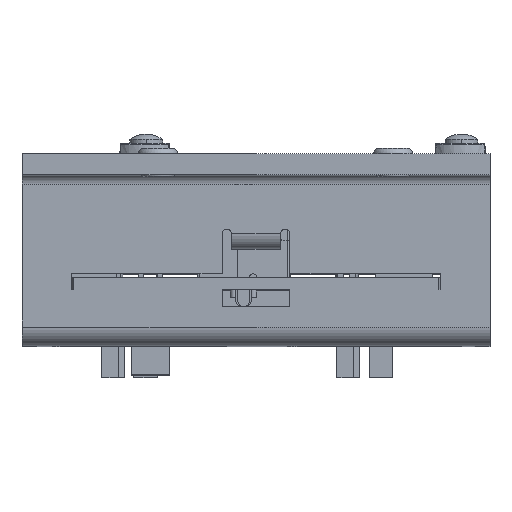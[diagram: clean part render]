
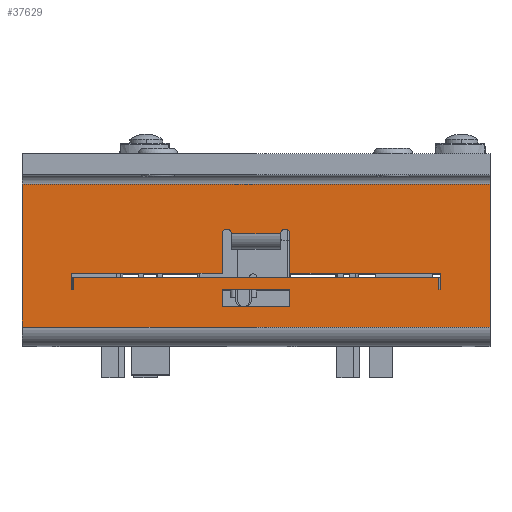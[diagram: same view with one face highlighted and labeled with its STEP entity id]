
A CAD part, top view. The second image highlights one B-rep face of the part: STEP entity #37629.
In plain terms, the highlighted planar face has unit normal (0, 0, 1).
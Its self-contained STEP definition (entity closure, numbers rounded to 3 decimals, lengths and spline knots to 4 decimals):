
#999=DIRECTION('',(0.,1.,0.));
#1000=VECTOR('',#999,0.728);
#1001=CARTESIAN_POINT('',(-0.081,-0.192,0.));
#1002=LINE('',#1001,#1000);
#1107=DIRECTION('',(0.,1.,0.));
#1108=VECTOR('',#1107,0.728);
#1109=CARTESIAN_POINT('',(2.307,-0.192,0.));
#1110=LINE('',#1109,#1108);
#1179=DIRECTION('',(-1.,0.,0.));
#1180=VECTOR('',#1179,2.388);
#1181=CARTESIAN_POINT('',(2.307,0.536,0.));
#1182=LINE('',#1181,#1180);
#1183=DIRECTION('',(-1.,0.,0.));
#1184=VECTOR('',#1183,2.388);
#1185=CARTESIAN_POINT('',(2.307,-0.192,0.));
#1186=LINE('',#1185,#1184);
#1187=DIRECTION('',(0.,1.,0.));
#1188=VECTOR('',#1187,0.0883);
#1189=CARTESIAN_POINT('',(1.286,-0.0883,0.));
#1190=LINE('',#1189,#1188);
#1191=DIRECTION('',(0.,-1.,0.));
#1192=VECTOR('',#1191,0.0883);
#1193=CARTESIAN_POINT('',(0.94,0.,0.));
#1194=LINE('',#1193,#1192);
#1195=DIRECTION('',(1.,0.,0.));
#1196=VECTOR('',#1195,0.346);
#1197=CARTESIAN_POINT('',(0.94,-0.0883,0.));
#1198=LINE('',#1197,#1196);
#1199=DIRECTION('',(1.,0.,0.));
#1200=VECTOR('',#1199,0.011);
#1201=CARTESIAN_POINT('',(0.171,0.,0.));
#1202=LINE('',#1201,#1200);
#1203=DIRECTION('',(0.,1.,0.));
#1204=VECTOR('',#1203,0.062);
#1205=CARTESIAN_POINT('',(0.182,0.,0.));
#1206=LINE('',#1205,#1204);
#1207=DIRECTION('',(0.,1.,0.));
#1208=VECTOR('',#1207,0.062);
#1209=CARTESIAN_POINT('',(2.046,0.,0.));
#1210=LINE('',#1209,#1208);
#1211=DIRECTION('',(1.,0.,0.));
#1212=VECTOR('',#1211,0.009);
#1213=CARTESIAN_POINT('',(2.046,0.,0.));
#1214=LINE('',#1213,#1212);
#1215=DIRECTION('',(0.,1.,0.));
#1216=VECTOR('',#1215,0.082);
#1217=CARTESIAN_POINT('',(2.055,0.,0.));
#1218=LINE('',#1217,#1216);
#1219=DIRECTION('',(-1.,0.,0.));
#1220=VECTOR('',#1219,0.769);
#1221=CARTESIAN_POINT('',(2.055,0.082,0.));
#1222=LINE('',#1221,#1220);
#1223=DIRECTION('',(0.,1.,0.));
#1224=VECTOR('',#1223,0.202);
#1225=CARTESIAN_POINT('',(1.286,0.082,0.));
#1226=LINE('',#1225,#1224);
#1227=CARTESIAN_POINT('',(1.262,0.284,0.));
#1228=DIRECTION('',(0.,0.,1.));
#1229=DIRECTION('',(1.,0.,0.));
#1230=AXIS2_PLACEMENT_3D('',#1227,#1228,#1229);
#1232=DIRECTION('',(-1.,0.,0.));
#1233=VECTOR('',#1232,0.25);
#1234=CARTESIAN_POINT('',(1.238,0.284,0.));
#1235=LINE('',#1234,#1233);
#1236=CARTESIAN_POINT('',(0.964,0.284,0.));
#1237=DIRECTION('',(0.,0.,1.));
#1238=DIRECTION('',(1.,0.,0.));
#1239=AXIS2_PLACEMENT_3D('',#1236,#1237,#1238);
#1241=DIRECTION('',(0.,-1.,0.));
#1242=VECTOR('',#1241,0.202);
#1243=CARTESIAN_POINT('',(0.94,0.284,0.));
#1244=LINE('',#1243,#1242);
#1245=DIRECTION('',(-1.,0.,0.));
#1246=VECTOR('',#1245,0.769);
#1247=CARTESIAN_POINT('',(0.94,0.082,0.));
#1248=LINE('',#1247,#1246);
#1249=DIRECTION('',(0.,-1.,0.));
#1250=VECTOR('',#1249,0.082);
#1251=CARTESIAN_POINT('',(0.171,0.082,0.));
#1252=LINE('',#1251,#1250);
#2679=DIRECTION('',(1.,0.,0.));
#2680=VECTOR('',#2679,0.346);
#2681=CARTESIAN_POINT('',(0.94,0.,0.));
#2682=LINE('',#2681,#2680);
#3820=DIRECTION('',(1.,0.,0.));
#3821=VECTOR('',#3820,1.864);
#3822=CARTESIAN_POINT('',(0.182,0.062,0.));
#3823=LINE('',#3822,#3821);
#29324=CARTESIAN_POINT('',(2.307,-0.192,0.));
#29326=VERTEX_POINT('',#29324);
#29327=CARTESIAN_POINT('',(2.307,0.536,0.));
#29328=VERTEX_POINT('',#29327);
#29344=CARTESIAN_POINT('',(-0.081,-0.192,0.));
#29346=VERTEX_POINT('',#29344);
#29347=CARTESIAN_POINT('',(-0.081,0.536,0.));
#29348=VERTEX_POINT('',#29347);
#29481=CARTESIAN_POINT('',(2.055,0.082,0.));
#29482=CARTESIAN_POINT('',(1.286,0.082,0.));
#29483=VERTEX_POINT('',#29481);
#29484=VERTEX_POINT('',#29482);
#29485=CARTESIAN_POINT('',(0.171,0.082,0.));
#29486=CARTESIAN_POINT('',(0.171,0.,0.));
#29487=VERTEX_POINT('',#29485);
#29488=VERTEX_POINT('',#29486);
#29489=CARTESIAN_POINT('',(2.055,0.,0.));
#29490=VERTEX_POINT('',#29489);
#29789=CARTESIAN_POINT('',(0.94,0.284,0.));
#29791=VERTEX_POINT('',#29789);
#29793=CARTESIAN_POINT('',(1.286,0.284,0.));
#29795=VERTEX_POINT('',#29793);
#29797=CARTESIAN_POINT('',(0.94,-0.0883,0.));
#29798=CARTESIAN_POINT('',(1.286,-0.0883,0.));
#29799=VERTEX_POINT('',#29797);
#29800=VERTEX_POINT('',#29798);
#29805=CARTESIAN_POINT('',(0.94,0.082,0.));
#29806=VERTEX_POINT('',#29805);
#29817=CARTESIAN_POINT('',(0.988,0.284,0.));
#29818=VERTEX_POINT('',#29817);
#29819=CARTESIAN_POINT('',(1.238,0.284,0.));
#29820=VERTEX_POINT('',#29819);
#30249=CARTESIAN_POINT('',(0.182,0.062,0.));
#30251=VERTEX_POINT('',#30249);
#30263=CARTESIAN_POINT('',(2.046,0.062,0.));
#30264=VERTEX_POINT('',#30263);
#30337=CARTESIAN_POINT('',(0.182,0.,0.));
#30338=VERTEX_POINT('',#30337);
#30343=CARTESIAN_POINT('',(0.94,0.,0.));
#30344=VERTEX_POINT('',#30343);
#30345=CARTESIAN_POINT('',(1.286,0.,0.));
#30346=VERTEX_POINT('',#30345);
#30347=CARTESIAN_POINT('',(2.046,0.,0.));
#30348=VERTEX_POINT('',#30347);
#37577=CARTESIAN_POINT('',(2.307,-0.192,0.));
#37578=DIRECTION('',(0.,0.,1.));
#37579=DIRECTION('',(0.,1.,0.));
#37580=AXIS2_PLACEMENT_3D('',#37577,#37578,#37579);
#37581=PLANE('',#37580);
#37582=ORIENTED_EDGE('',*,*,#37449,.F.);
#37584=ORIENTED_EDGE('',*,*,#37583,.T.);
#37585=ORIENTED_EDGE('',*,*,#37347,.T.);
#37586=ORIENTED_EDGE('',*,*,#37569,.F.);
#37587=EDGE_LOOP('',(#37582,#37584,#37585,#37586));
#37588=FACE_OUTER_BOUND('',#37587,.F.);
#37590=ORIENTED_EDGE('',*,*,#37589,.T.);
#37592=ORIENTED_EDGE('',*,*,#37591,.F.);
#37594=ORIENTED_EDGE('',*,*,#37593,.T.);
#37596=ORIENTED_EDGE('',*,*,#37595,.T.);
#37597=EDGE_LOOP('',(#37590,#37592,#37594,#37596));
#37598=FACE_BOUND('',#37597,.F.);
#37600=ORIENTED_EDGE('',*,*,#37599,.T.);
#37602=ORIENTED_EDGE('',*,*,#37601,.T.);
#37604=ORIENTED_EDGE('',*,*,#37603,.T.);
#37606=ORIENTED_EDGE('',*,*,#37605,.F.);
#37608=ORIENTED_EDGE('',*,*,#37607,.T.);
#37610=ORIENTED_EDGE('',*,*,#37609,.T.);
#37612=ORIENTED_EDGE('',*,*,#37611,.T.);
#37614=ORIENTED_EDGE('',*,*,#37613,.T.);
#37616=ORIENTED_EDGE('',*,*,#37615,.T.);
#37618=ORIENTED_EDGE('',*,*,#37617,.T.);
#37620=ORIENTED_EDGE('',*,*,#37619,.T.);
#37622=ORIENTED_EDGE('',*,*,#37621,.T.);
#37624=ORIENTED_EDGE('',*,*,#37623,.T.);
#37626=ORIENTED_EDGE('',*,*,#37625,.T.);
#37627=EDGE_LOOP('',(#37600,#37602,#37604,#37606,#37608,#37610,#37612,#37614,
#37616,#37618,#37620,#37622,#37624,#37626));
#37628=FACE_BOUND('',#37627,.F.);
#37629=ADVANCED_FACE('',(#37588,#37598,#37628),#37581,.T.);
#1231=CIRCLE('',#1230,0.024);
#1240=CIRCLE('',#1239,0.024);
#37347=EDGE_CURVE('',#29346,#29348,#1002,.T.);
#37449=EDGE_CURVE('',#29326,#29328,#1110,.T.);
#37569=EDGE_CURVE('',#29328,#29348,#1182,.T.);
#37583=EDGE_CURVE('',#29326,#29346,#1186,.T.);
#37589=EDGE_CURVE('',#29800,#30346,#1190,.T.);
#37591=EDGE_CURVE('',#30344,#30346,#2682,.T.);
#37593=EDGE_CURVE('',#30344,#29799,#1194,.T.);
#37595=EDGE_CURVE('',#29799,#29800,#1198,.T.);
#37599=EDGE_CURVE('',#29488,#30338,#1202,.T.);
#37601=EDGE_CURVE('',#30338,#30251,#1206,.T.);
#37603=EDGE_CURVE('',#30251,#30264,#3823,.T.);
#37605=EDGE_CURVE('',#30348,#30264,#1210,.T.);
#37607=EDGE_CURVE('',#30348,#29490,#1214,.T.);
#37609=EDGE_CURVE('',#29490,#29483,#1218,.T.);
#37611=EDGE_CURVE('',#29483,#29484,#1222,.T.);
#37613=EDGE_CURVE('',#29484,#29795,#1226,.T.);
#37615=EDGE_CURVE('',#29795,#29820,#1231,.T.);
#37617=EDGE_CURVE('',#29820,#29818,#1235,.T.);
#37619=EDGE_CURVE('',#29818,#29791,#1240,.T.);
#37621=EDGE_CURVE('',#29791,#29806,#1244,.T.);
#37623=EDGE_CURVE('',#29806,#29487,#1248,.T.);
#37625=EDGE_CURVE('',#29487,#29488,#1252,.T.);
